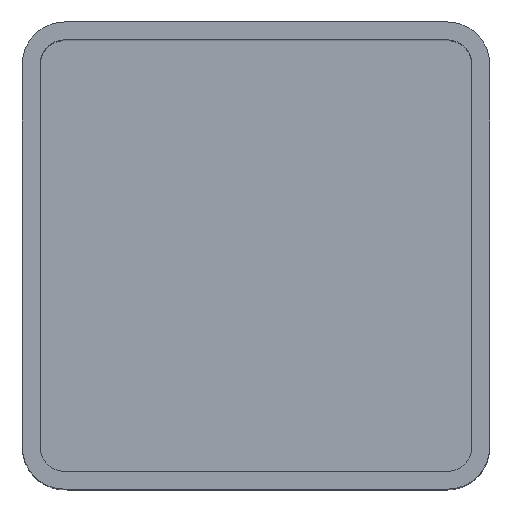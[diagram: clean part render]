
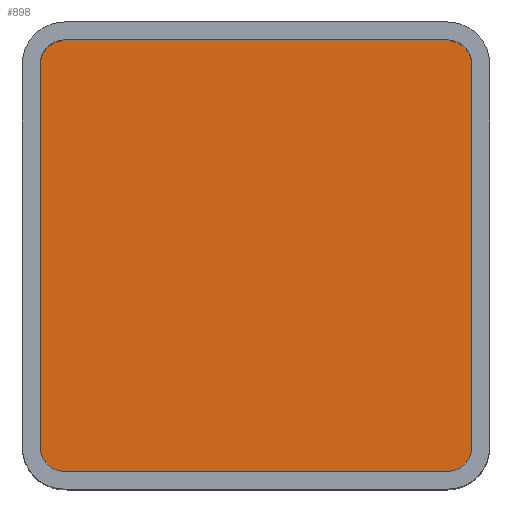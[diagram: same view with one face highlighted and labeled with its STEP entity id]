
A CAD part, top view. The second image highlights one B-rep face of the part: STEP entity #898.
In plain terms, the highlighted planar face has unit normal (0, 0, 1).
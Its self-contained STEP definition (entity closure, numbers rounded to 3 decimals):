
#39=LINE('',#1408,#119);
#40=LINE('',#1412,#120);
#41=LINE('',#1416,#121);
#42=LINE('',#1420,#122);
#119=VECTOR('',#1124,10.);
#120=VECTOR('',#1127,10.);
#121=VECTOR('',#1130,10.);
#122=VECTOR('',#1133,10.);
#227=FACE_OUTER_BOUND('',#291,.T.);
#291=EDGE_LOOP('',(#620,#621,#622,#623,#624,#625,#626,#627));
#356=CIRCLE('',#990,2.15);
#357=CIRCLE('',#991,2.15);
#358=CIRCLE('',#992,2.15);
#359=CIRCLE('',#993,2.15);
#399=VERTEX_POINT('',#1406);
#400=VERTEX_POINT('',#1407);
#401=VERTEX_POINT('',#1409);
#402=VERTEX_POINT('',#1411);
#403=VERTEX_POINT('',#1413);
#404=VERTEX_POINT('',#1415);
#405=VERTEX_POINT('',#1417);
#406=VERTEX_POINT('',#1419);
#481=EDGE_CURVE('',#399,#400,#39,.T.);
#482=EDGE_CURVE('',#401,#399,#356,.T.);
#483=EDGE_CURVE('',#402,#401,#40,.T.);
#484=EDGE_CURVE('',#403,#402,#357,.T.);
#485=EDGE_CURVE('',#404,#403,#41,.T.);
#486=EDGE_CURVE('',#405,#404,#358,.T.);
#487=EDGE_CURVE('',#406,#405,#42,.T.);
#488=EDGE_CURVE('',#400,#406,#359,.T.);
#620=ORIENTED_EDGE('',*,*,#481,.F.);
#621=ORIENTED_EDGE('',*,*,#482,.F.);
#622=ORIENTED_EDGE('',*,*,#483,.F.);
#623=ORIENTED_EDGE('',*,*,#484,.F.);
#624=ORIENTED_EDGE('',*,*,#485,.F.);
#625=ORIENTED_EDGE('',*,*,#486,.F.);
#626=ORIENTED_EDGE('',*,*,#487,.F.);
#627=ORIENTED_EDGE('',*,*,#488,.F.);
#858=PLANE('',#989);
#898=ADVANCED_FACE('',(#227),#858,.T.);
#989=AXIS2_PLACEMENT_3D('',#1405,#1122,#1123);
#990=AXIS2_PLACEMENT_3D('',#1410,#1125,#1126);
#991=AXIS2_PLACEMENT_3D('',#1414,#1128,#1129);
#992=AXIS2_PLACEMENT_3D('',#1418,#1131,#1132);
#993=AXIS2_PLACEMENT_3D('',#1421,#1134,#1135);
#1122=DIRECTION('center_axis',(0.,0.,1.));
#1123=DIRECTION('ref_axis',(-1.,0.,0.));
#1124=DIRECTION('',(0.,1.,0.));
#1125=DIRECTION('center_axis',(0.,0.,-1.));
#1126=DIRECTION('ref_axis',(-1.,0.,0.));
#1127=DIRECTION('',(-1.,0.,0.));
#1128=DIRECTION('center_axis',(0.,0.,-1.));
#1129=DIRECTION('ref_axis',(0.,-1.,0.));
#1130=DIRECTION('',(0.,-1.,0.));
#1131=DIRECTION('center_axis',(0.,0.,-1.));
#1132=DIRECTION('ref_axis',(0.707,0.707,0.));
#1133=DIRECTION('',(1.,0.,0.));
#1134=DIRECTION('center_axis',(0.,0.,-1.));
#1135=DIRECTION('ref_axis',(-0.707,0.707,0.));
#1405=CARTESIAN_POINT('Origin',(75.75,75.75,2.2));
#1406=CARTESIAN_POINT('',(43.35,45.5,2.2));
#1407=CARTESIAN_POINT('',(43.35,79.75,2.2));
#1408=CARTESIAN_POINT('',(43.35,77.75,2.2));
#1409=CARTESIAN_POINT('',(45.5,43.35,2.2));
#1410=CARTESIAN_POINT('Origin',(45.5,45.5,2.2));
#1411=CARTESIAN_POINT('',(79.75,43.35,2.2));
#1412=CARTESIAN_POINT('',(60.625,43.35,2.2));
#1413=CARTESIAN_POINT('',(81.9,45.5,2.2));
#1414=CARTESIAN_POINT('Origin',(79.75,45.5,2.2));
#1415=CARTESIAN_POINT('',(81.9,79.75,2.2));
#1416=CARTESIAN_POINT('',(81.9,60.625,2.2));
#1417=CARTESIAN_POINT('',(79.75,81.9,2.2));
#1418=CARTESIAN_POINT('Origin',(79.75,79.75,2.2));
#1419=CARTESIAN_POINT('',(45.5,81.9,2.2));
#1420=CARTESIAN_POINT('',(77.75,81.9,2.2));
#1421=CARTESIAN_POINT('Origin',(45.5,79.75,2.2));
